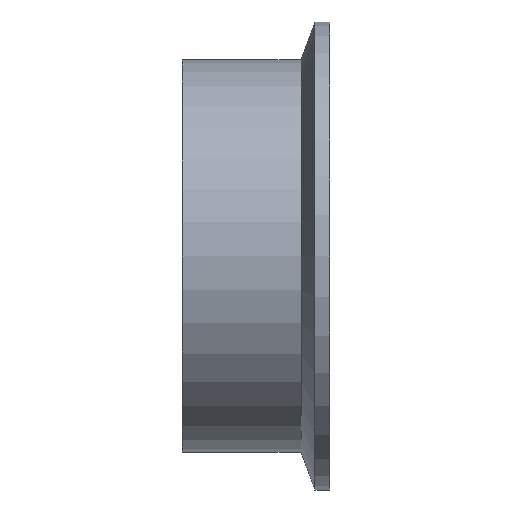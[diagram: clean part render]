
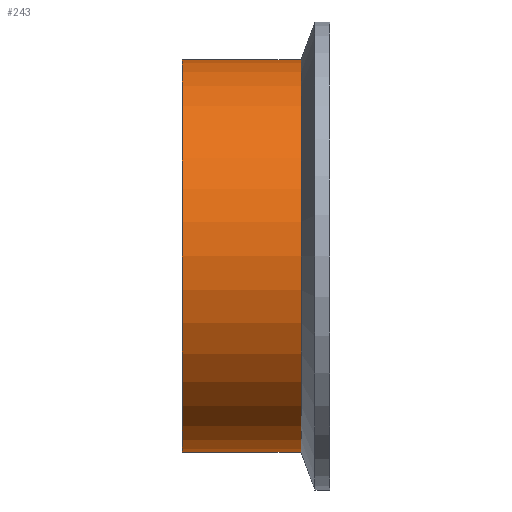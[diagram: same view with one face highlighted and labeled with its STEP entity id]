
A CAD part, left-side view. The second image highlights one B-rep face of the part: STEP entity #243.
In plain terms, the highlighted cylindrical face has radius 38.1 mm (diameter 76.2 mm), a partial arc.
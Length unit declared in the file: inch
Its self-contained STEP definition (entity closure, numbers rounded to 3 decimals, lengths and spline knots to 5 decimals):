
#10 = EDGE_CURVE ( 'NONE', #499, #339, #302, .T. ) ;
#15 = CARTESIAN_POINT ( 'NONE',  ( 0., 0., 0. ) ) ;
#22 = CARTESIAN_POINT ( 'NONE',  ( 0., 0.21737, 1.5 ) ) ;
#41 = CARTESIAN_POINT ( 'NONE',  ( 0., 0.21737, -1.5 ) ) ;
#51 = DIRECTION ( 'NONE',  ( 0., 0., -1. ) ) ;
#82 = CARTESIAN_POINT ( 'NONE',  ( 0., 1.125, -1.5 ) ) ;
#117 = AXIS2_PLACEMENT_3D ( 'NONE', #172, #509, #226 ) ;
#120 = LINE ( 'NONE', #228, #149 ) ;
#125 = VERTEX_POINT ( 'NONE', #41 ) ;
#149 = VECTOR ( 'NONE', #175, 39.37008 ) ;
#161 = CARTESIAN_POINT ( 'NONE',  ( 0., 0., 1.5 ) ) ;
#172 = CARTESIAN_POINT ( 'NONE',  ( 0., 0.21737, 0. ) ) ;
#175 = DIRECTION ( 'NONE',  ( 0., -1., 0. ) ) ;
#179 = CIRCLE ( 'NONE', #117, 1.5 ) ;
#204 = VECTOR ( 'NONE', #212, 39.37008 ) ;
#212 = DIRECTION ( 'NONE',  ( 0., -1., 0. ) ) ;
#226 = DIRECTION ( 'NONE',  ( 0., 0., -1. ) ) ;
#228 = CARTESIAN_POINT ( 'NONE',  ( 0., 0., -1.5 ) ) ;
#237 = LINE ( 'NONE', #161, #204 ) ;
#238 = CYLINDRICAL_SURFACE ( 'NONE', #253, 1.5 ) ;
#240 = FACE_OUTER_BOUND ( 'NONE', #318, .T. ) ;
#243 = ADVANCED_FACE ( 'NONE', ( #240 ), #238, .T. ) ;
#253 = AXIS2_PLACEMENT_3D ( 'NONE', #15, #306, #51 ) ;
#272 = DIRECTION ( 'NONE',  ( 0., 0., -1. ) ) ;
#280 = DIRECTION ( 'NONE',  ( 0., -1., 0. ) ) ;
#302 = CIRCLE ( 'NONE', #332, 1.5 ) ;
#306 = DIRECTION ( 'NONE',  ( 0., -1., 0. ) ) ;
#318 = EDGE_LOOP ( 'NONE', ( #328, #350, #501, #338 ) ) ;
#322 = CARTESIAN_POINT ( 'NONE',  ( 0., 1.125, 0. ) ) ;
#328 = ORIENTED_EDGE ( 'NONE', *, *, #344, .F. ) ;
#332 = AXIS2_PLACEMENT_3D ( 'NONE', #322, #280, #272 ) ;
#338 = ORIENTED_EDGE ( 'NONE', *, *, #485, .F. ) ;
#339 = VERTEX_POINT ( 'NONE', #82 ) ;
#344 = EDGE_CURVE ( 'NONE', #499, #376, #237, .T. ) ;
#350 = ORIENTED_EDGE ( 'NONE', *, *, #10, .T. ) ;
#376 = VERTEX_POINT ( 'NONE', #22 ) ;
#485 = EDGE_CURVE ( 'NONE', #376, #125, #179, .T. ) ;
#499 = VERTEX_POINT ( 'NONE', #511 ) ;
#501 = ORIENTED_EDGE ( 'NONE', *, *, #531, .T. ) ;
#509 = DIRECTION ( 'NONE',  ( 0., -1., 0. ) ) ;
#511 = CARTESIAN_POINT ( 'NONE',  ( 0., 1.125, 1.5 ) ) ;
#531 = EDGE_CURVE ( 'NONE', #339, #125, #120, .T. ) ;
